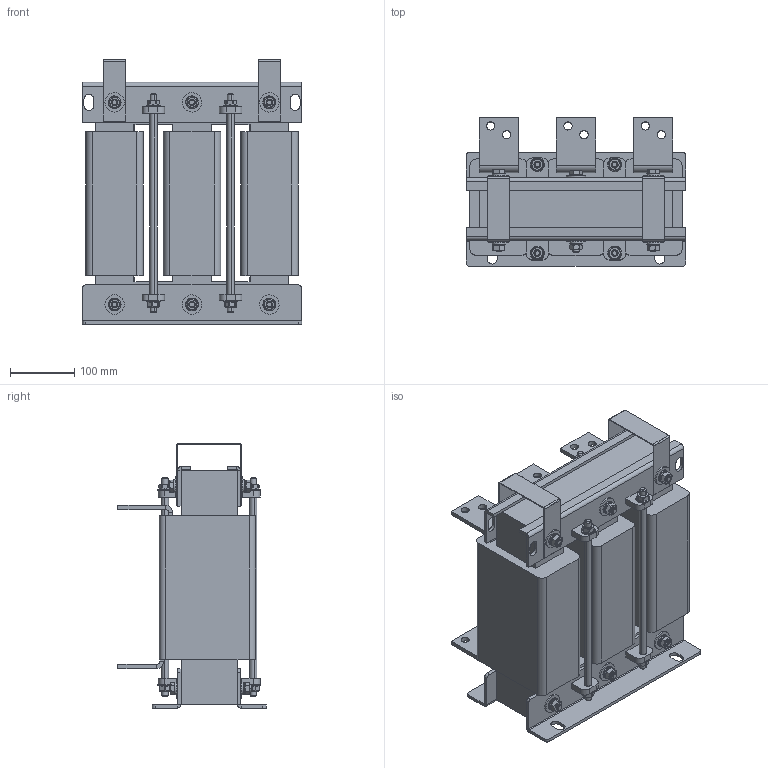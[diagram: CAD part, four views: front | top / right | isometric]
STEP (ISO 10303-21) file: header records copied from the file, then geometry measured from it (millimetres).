
FILE_DESCRIPTION (( 'STEP AP203' ), '1' );
FILE_NAME ('Ñåòåâîé äðîññåëü _ ISF-355_683-4.STEP', '2025-09-16T09:21:51', ( '' ), ( '' ), 'SwSTEP 2.0', 'SolidWorks 2021', '' );
FILE_SCHEMA (( 'CONFIG_CONTROL_DESIGN' ));
Length unit declared in the file: millimetre
Products named in the file (17): 栫謱毿膻獥355; Øàéáà ïëîñêàÿ DIN 125 (A)_Œ10; Øàéáà ïðóæèííàÿ DIN 127 (A)_Œ10; Áîëò DIN 933_Œ10å120; Êëåììà íèæíÿÿ_355; Ñêîáà òàêåëàæíàÿ_355; Ñåòåâîé äðîññåëü _ ISF-355_683-4; Øïèëüêà DIN 976_Œ10å340; Ãàéêà ñ ôëàíöåì DIN 6923_Œ10; Ãàéêà DIN 934_Œ10; 忺覷齆趌355; Èçîëÿòîð øïèëüêè_355; Êëåììà âåðõíÿÿ_355; 赶鎀鍧 瀔鳽鳻膼嶱355; Êàòóøêà ñ êëåììàìè_355; 咈櫡_355; Øàéáà ïëîñêàÿ DIN 9021_Œ10
Assembly tree (71 placements, depth 3):
  Ñåòåâîé äðîññåëü _ ISF-355_683-4
    栫謱毿膻獥355
    咈櫡_355  x2
    Êàòóøêà ñ êëåììàìè_355  x3
      忺覷齆趌355
      Êëåììà íèæíÿÿ_355
      Êëåììà âåðõíÿÿ_355
    赶鎀鍧 瀔鳽鳻膼嶱355  x2
    Ñêîáà òàêåëàæíàÿ_355  x2
    Áîëò DIN 933_Œ10å120  x6
    Øàéáà ïëîñêàÿ DIN 125 (A)_Œ10  x12
    Øàéáà ïëîñêàÿ DIN 9021_Œ10  x12
    Øàéáà ïðóæèííàÿ DIN 127 (A)_Œ10  x6
    Ãàéêà DIN 934_Œ10  x6
    Øïèëüêà DIN 976_Œ10å340  x4
    Ãàéêà ñ ôëàíöåì DIN 6923_Œ10  x8
    Èçîëÿòîð øïèëüêè_355  x4
Bounding box: 340 x 230 x 410 mm (x, y, z)
Volume: 13362949.1 mm3; surface area: 1539060.7 mm2
Topology: 74 solids, 74 shells, 1350 faces, 3172 edges, 1996 vertices
Faces by surface type: plane 546, cylinder 408, cone 272, torus 76, bspline 48
Entity records: 13789 total; most frequent: CARTESIAN_POINT 2295, DIRECTION 1808, ORIENTED_EDGE 1608, EDGE_CURVE 804, AXIS2_PLACEMENT_3D 681, VERTEX_POINT 508, LINE 446, VECTOR 446
